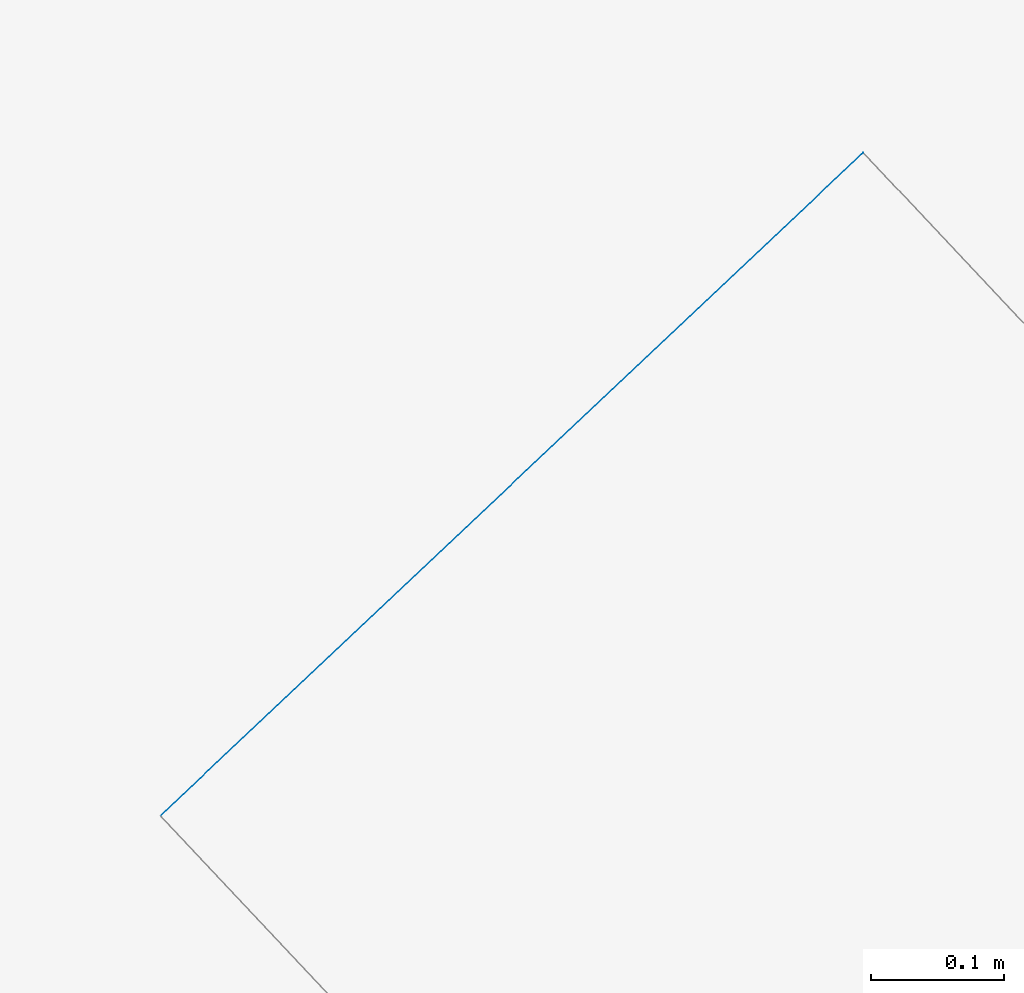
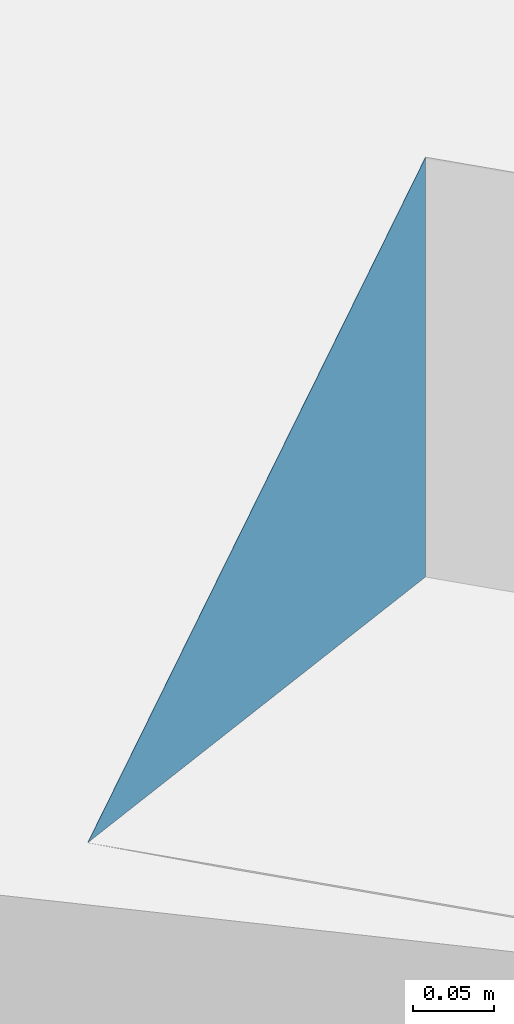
# Not in any storey, part 116 of 136: 1 wall.
"""IFC2X3 building model written with IfcOpenShell, lengths in metres."""

from ifc_helpers import new_model, entity, si_unit, converted_unit, origin, place, context, subcontext, project, spatial, face_set, surface_model, element, save


model = new_model("IFC2X3")

# Units and contexts
model_context = context("Model", 3, precision=1e-05, world=origin())
body_context = subcontext(model_context, "Body", "Model", "MODEL_VIEW")
ifc_project = project(units=[converted_unit("PLANEANGLEUNIT", "DEGREE", entity("IfcRatioMeasure", 0.0174532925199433), si_unit("PLANEANGLEUNIT", "RADIAN"), dimensions=[0, 0, 0, 0, 0, 0, 0]), si_unit("AREAUNIT", "SQUARE_METRE"), si_unit("LENGTHUNIT", "METRE")], contexts=[model_context])

# Site, building
site_placement = place(None, origin())
site = spatial("IfcSite", under=ifc_project, at=site_placement, Name="_site", CompositionType="ELEMENT")
building_placement = place(site_placement, origin())
building = spatial("IfcBuilding", under=site, at=building_placement, Name="_building", CompositionType="ELEMENT")

# Wall
wall_placement = place(building_placement, origin())
element("IfcWall", 1, at=wall_placement, inside=building, Name="Wall", context=body_context, shape_type="SurfaceModel", body=[
    surface_model("IfcFaceBasedSurfaceModel", [(45.84, 162.33, 46.521), (46.37, 162.83, 46.55), (46.37, 162.83, 46.233)], [face_set([[[0, 1, 2]]])]),
])

save(model, "model.ifc")
